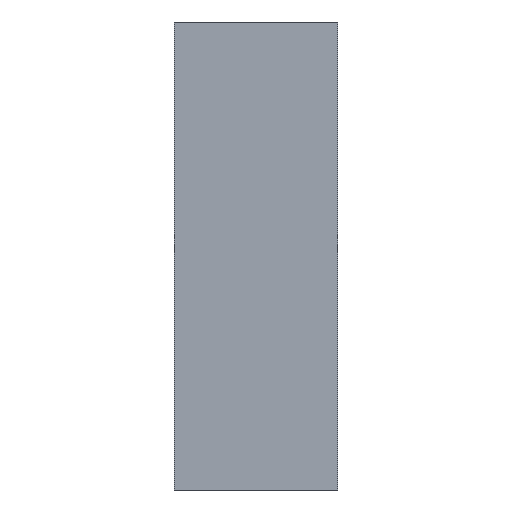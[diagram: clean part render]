
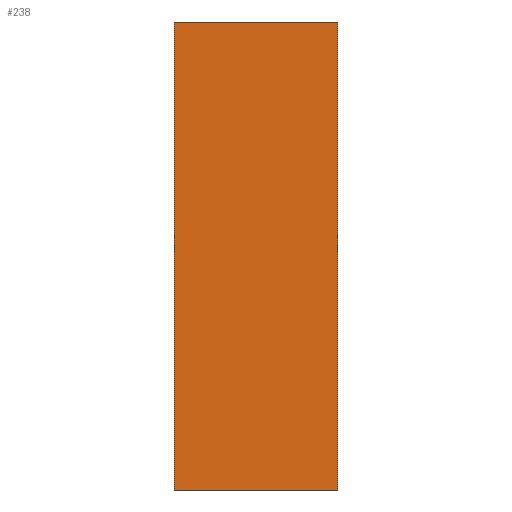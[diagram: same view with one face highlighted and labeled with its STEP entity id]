
A CAD part, front view. The second image highlights one B-rep face of the part: STEP entity #238.
In plain terms, the highlighted planar face has unit normal (0, -1, 0).
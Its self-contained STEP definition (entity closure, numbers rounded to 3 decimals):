
#2 = VERTEX_POINT ( 'NONE', #232 ) ;
#6 = EDGE_CURVE ( 'NONE', #10, #14, #282, .T. ) ;
#7 = EDGE_CURVE ( 'NONE', #242, #14, #287, .T. ) ;
#10 = VERTEX_POINT ( 'NONE', #290 ) ;
#13 = EDGE_LOOP ( 'NONE', ( #21, #16, #15, #237 ) ) ;
#14 = VERTEX_POINT ( 'NONE', #274 ) ;
#15 = ORIENTED_EDGE ( 'NONE', *, *, #239, .F. ) ;
#16 = ORIENTED_EDGE ( 'NONE', *, *, #6, .F. ) ;
#21 = ORIENTED_EDGE ( 'NONE', *, *, #7, .T. ) ;
#31 = EDGE_CURVE ( 'NONE', #2, #242, #87, .T. ) ;
#87 = LINE ( 'NONE', #189, #188 ) ;
#187 = DIRECTION ( 'NONE',  ( 0., 0., -1. ) ) ;
#188 = VECTOR ( 'NONE', #187, 1000. ) ;
#189 = CARTESIAN_POINT ( 'NONE',  ( 0., 0., 100. ) ) ;
#232 = CARTESIAN_POINT ( 'NONE',  ( 0., 0., 100. ) ) ;
#237 = ORIENTED_EDGE ( 'NONE', *, *, #31, .T. ) ;
#238 = ADVANCED_FACE ( 'NONE', ( #335 ), #421, .F. ) ;
#239 = EDGE_CURVE ( 'NONE', #2, #10, #319, .T. ) ;
#242 = VERTEX_POINT ( 'NONE', #312 ) ;
#274 = CARTESIAN_POINT ( 'NONE',  ( 35., 0., 0. ) ) ;
#275 = DIRECTION ( 'NONE',  ( 1., 0., 0. ) ) ;
#276 = VECTOR ( 'NONE', #275, 1000. ) ;
#277 = CARTESIAN_POINT ( 'NONE',  ( 0., 0., 0. ) ) ;
#280 = DIRECTION ( 'NONE',  ( 0., 0., -1. ) ) ;
#281 = VECTOR ( 'NONE', #280, 1000. ) ;
#282 = LINE ( 'NONE', #289, #281 ) ;
#287 = LINE ( 'NONE', #277, #276 ) ;
#289 = CARTESIAN_POINT ( 'NONE',  ( 35., 0., 100. ) ) ;
#290 = CARTESIAN_POINT ( 'NONE',  ( 35., 0., 100. ) ) ;
#312 = CARTESIAN_POINT ( 'NONE',  ( 0., 0., 0. ) ) ;
#313 = DIRECTION ( 'NONE',  ( 1., 0., 0. ) ) ;
#315 = DIRECTION ( 'NONE',  ( 0., 0., 1. ) ) ;
#317 = VECTOR ( 'NONE', #313, 1000. ) ;
#318 = CARTESIAN_POINT ( 'NONE',  ( 0., 0., 100. ) ) ;
#319 = LINE ( 'NONE', #318, #317 ) ;
#335 = FACE_OUTER_BOUND ( 'NONE', #13, .T. ) ;
#363 = DIRECTION ( 'NONE',  ( 0., 1., 0. ) ) ;
#364 = CARTESIAN_POINT ( 'NONE',  ( 0., 0., 100. ) ) ;
#421 = PLANE ( 'NONE',  #423 ) ;
#423 = AXIS2_PLACEMENT_3D ( 'NONE', #364, #363, #315 ) ;
